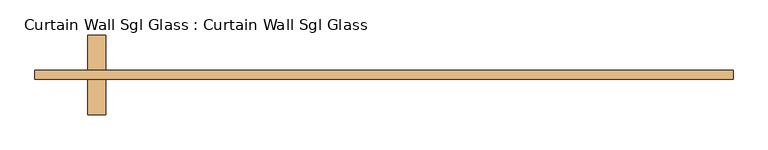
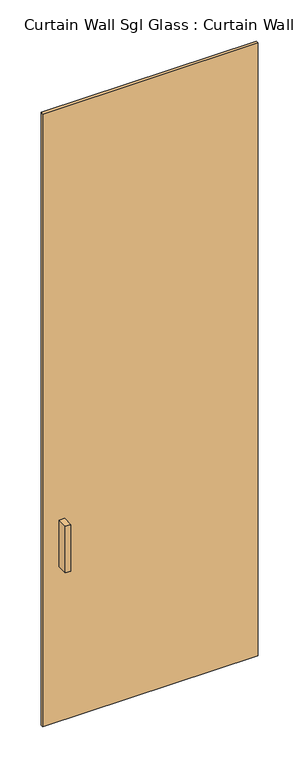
"""IFC4 building model written with IfcOpenShell, lengths in millimetres: door geometry, Curtain Wall Sgl Glass : Curtain Wall Sgl Glass."""

from ifc_helpers import new_model, si_unit, frame, origin, origin_with_axes, place, context, project, spatial, polyline, outline, extrude, source, transform, mapped, element, save


def curtain_wall_sgl_glass_curtain_wall_sgl_glass_6f19eea7(model_context):
    return source(origin(), model_context, "Body", "SweptSolid", [
        extrude(outline(polyline([(-399.5964286, -12.7), (-424.9964286, -12.7), (-424.9964286, 38.1), (-399.5964286, 38.1), (-399.5964286, -12.7)])), frame((0.0, 0.0, 762.0), z_axis=(0.0, 0.0, 1.0), x_axis=(1.0, 0.0, 0.0)), (0.0, 0.0, 1.0), 228.6),
        extrude(outline(polyline([(-424.9964286, 101.6), (-399.5964286, 101.6), (-399.5964286, 50.8), (-424.9964286, 50.8), (-424.9964286, 101.6)])), frame((0.0, 0.0, 762.0), z_axis=(0.0, 0.0, 1.0), x_axis=(1.0, 0.0, 0.0)), (0.0, 0.0, 1.0), 228.6),
        extrude(outline(polyline([(501.1964286, 50.8), (501.1964286, 38.1), (-501.1964286, 38.1), (-501.1964286, 50.8), (501.1964286, 50.8)])), origin_with_axes(), (0.0, 0.0, 1.0), 3016.25),
    ])


if __name__ == "__main__":
    model = new_model("IFC4")
    model_context = context("Model", 3, world=origin())
    ifc_project = project(units=[si_unit("LENGTHUNIT", "METRE", prefix="MILLI")], contexts=[model_context])
    site = spatial("IfcSite", under=ifc_project)
    building = spatial("IfcBuilding", under=site)
    placement = place(None, origin())
    curtain_wall_sgl_glass_curtain_wall_sgl_glass_shape = curtain_wall_sgl_glass_curtain_wall_sgl_glass_6f19eea7(model_context)
    element("IfcDoor", 1, ObjectType="Curtain Wall Sgl Glass : Curtain Wall Sgl Glass", at=placement, inside=building, context=model_context, shape_type="MappedRepresentation", body=[
        mapped(curtain_wall_sgl_glass_curtain_wall_sgl_glass_shape, transform((0.0, 0.0, 0.0), x_axis=(1.0, 0.0, 0.0), y_axis=(0.0, 1.0, 0.0), z_axis=(0.0, 0.0, 1.0))),
    ])
    save(model, "model.ifc")
